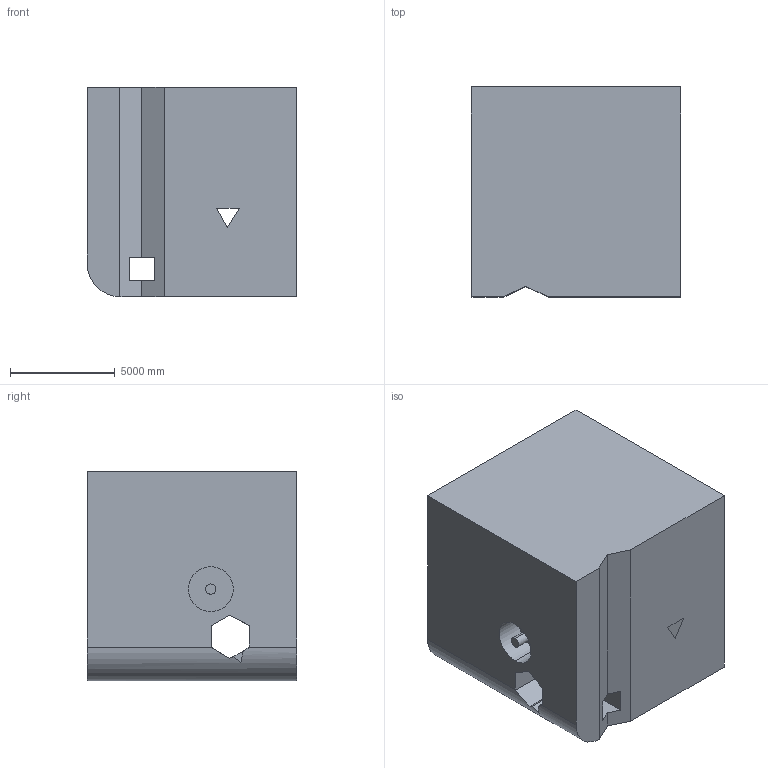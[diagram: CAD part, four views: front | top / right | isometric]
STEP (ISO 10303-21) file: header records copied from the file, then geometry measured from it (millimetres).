
FILE_DESCRIPTION (( 'STEP AP203' ), '1' );
FILE_NAME ('896.STEP', '2022-07-29T14:05:28', ( 'user' ), ( '' ), 'SwSTEP 2.0', 'SolidWorks 2021', '' );
FILE_SCHEMA (( 'CONFIG_CONTROL_DESIGN' ));
Length unit declared in the file: centimetre
Products named in the file (1): 896
Bounding box: 10000 x 10000 x 10000 mm (x, y, z)
Volume: 909853406698.1 mm3; surface area: 773835501 mm2
Topology: 1 solids, 1 shells, 46 faces, 141 edges, 94 vertices
Faces by surface type: plane 39, cylinder 7
Entity records: 1662 total; most frequent: CARTESIAN_POINT 300, ORIENTED_EDGE 282, DIRECTION 249, EDGE_CURVE 141, VECTOR 115, LINE 115, VERTEX_POINT 94, AXIS2_PLACEMENT_3D 67
